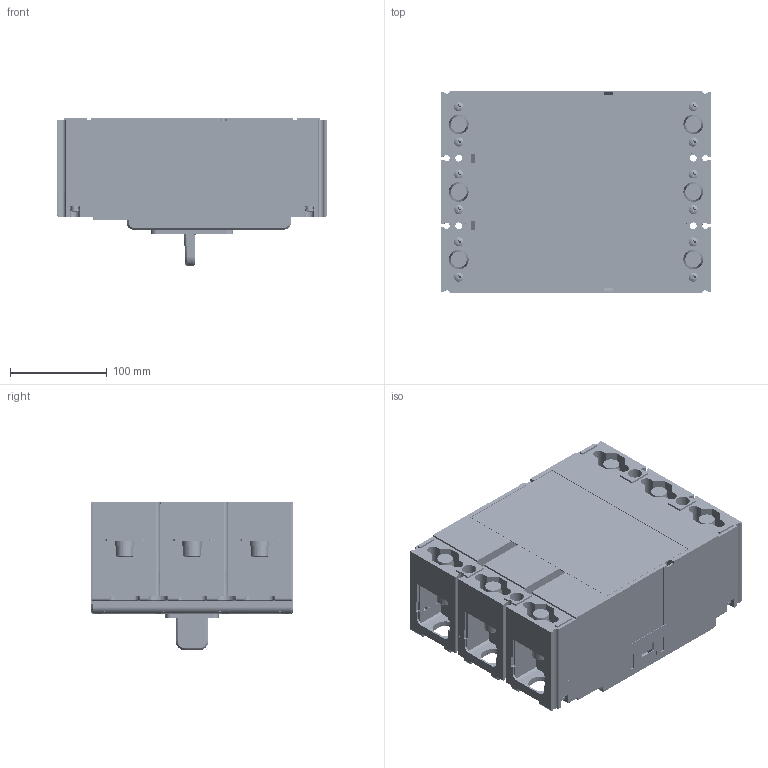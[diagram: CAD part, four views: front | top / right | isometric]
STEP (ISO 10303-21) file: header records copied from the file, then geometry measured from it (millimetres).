
FILE_DESCRIPTION((''),'2;1');
FILE_NAME('800-01_ASM','2023-05-29T',('ling.zeng'),(''),'PRO/ENGINEER BY PARAMETRIC TECHNOLOGY CORPORATION, 2015440','PRO/ENGINEER BY PARAMETRIC TECHNOLOGY CORPORATION, 2015440','');
FILE_SCHEMA(('CONFIG_CONTROL_DESIGN'));
Products named in the file (48): JIZUO_5024040100_1; GB_T809-M5X16_1; 5024040100_ASM_1_ASM; 8940200100_1; 8585072500_1; 5551091100_ASM_1_ASM; 5551089000_ASM_1_ASM; 5551089700_ASM_1_ASM; 5551089900_ASM_1_ASM; 8551039600_1; 5551090800_ASM_1_ASM; 5551088900_ASM_1_ASM; 8288051000_AF0_1; 8288051000_AF1_1; 8585072400_1; 7030100029_GB_T9074_4-M5X12_R_1; 7030100030_GB_T9074_4_M5X18_R_1; 5295004400_ASM_1_ASM; 8742116100_1; 8742116200_1; 8253057400_1; 8865077500_AF0_1; 8865077600_AF0_1; 5253021200_ASM_1_ASM; ZHONGGAI_5315016200_1; GB_T809-M3X8_1; 5315016200_ASM_1_ASM; 8253201300_1; 8282201200_AF0_1; 5315016700_ASM_1_ASM; GB_T823-M5X35_1; 7090300501K_GB_T93_5_1; GB_T97_4_5_1; 5850007400_ASM_1_ASM; GB_T70_1-M12X35_1; GB_T9074_26-12_1; GB_T97_4_12_1; 5850010000_ASM_1_ASM; 8315075000_1; 8315075200_1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
Assembly tree (107 placements, depth 8):
  800-01_ASM
    2253014200_ASM_1_ASM
      5295004400_ASM_1_ASM
        5024040100_ASM_1_ASM
          JIZUO_5024040100_1
          GB_T809-M5X16_1  x10
        8940200100_1  x6
        5551089900_ASM_1_ASM
          5551089700_ASM_1_ASM
            5551089000_ASM_1_ASM  x3
              5551091100_ASM_1_ASM
                8585072500_1
        5551088900_ASM_1_ASM  x3
          5551090800_ASM_1_ASM
            8551039600_1
        8288051000_AF0_1
        8288051000_AF1_1
        8585072400_1  x3
        7030100029_GB_T9074_4-M5X12_R_1  x6
        7030100030_GB_T9074_4_M5X18_R_1  x6
      8742116100_1  x3
      8742116200_1  x3
      5253021200_ASM_1_ASM
        8253057400_1
        8865077500_AF0_1
        8865077600_AF0_1
      5315016700_ASM_1_ASM
        5315016200_ASM_1_ASM
          ZHONGGAI_5315016200_1
          GB_T809-M3X8_1  x7
        8253201300_1
        8282201200_AF0_1
      5850007400_ASM_1_ASM  x10
        GB_T823-M5X35_1
        7090300501K_GB_T93_5_1
        GB_T97_4_5_1
      5850010000_ASM_1_ASM  x6
        GB_T70_1-M12X35_1
        GB_T9074_26-12_1
        GB_T97_4_12_1
      8315075000_1
      8315075200_1
      8742116700_1
      5850007700_ASM_1_ASM  x7
        7010100305R01_GB_T823_M3X10_1
        7090300201_GB_T93_3_1
        GB_T97_4_3_1
      8322008300_1
Bounding box: 280 x 210 x 154 mm (x, y, z)
Volume: 2499764.4 mm3; surface area: 1013211.5 mm2
Topology: 132 solids, 205 shells, 6831 faces, 18080 edges, 11774 vertices
Faces by surface type: plane 4325, cylinder 1682, cone 340, extrusion 160, torus 130, bspline 122, sphere 72
Entity records: 228378 total; most frequent: CARTESIAN_POINT 100782, ORIENTED_EDGE 26946, DIRECTION 25379, EDGE_CURVE 13507, VECTOR 10071, LINE 9911, VERTEX_POINT 8865, AXIS2_PLACEMENT_3D 7654
